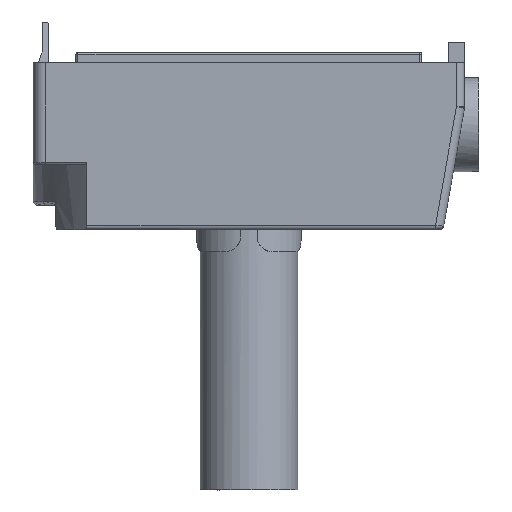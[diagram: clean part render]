
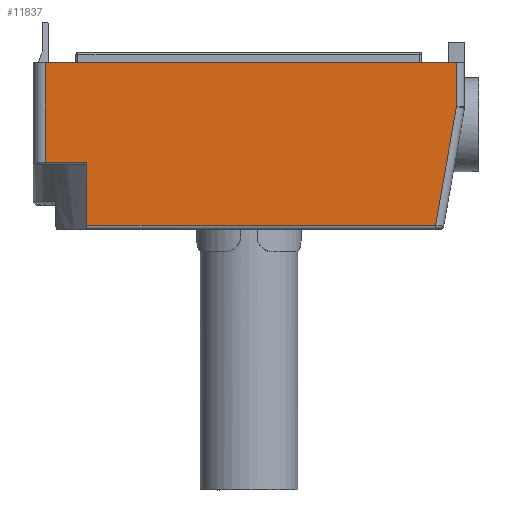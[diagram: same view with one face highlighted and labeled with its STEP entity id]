
A CAD part, front view. The second image highlights one B-rep face of the part: STEP entity #11837.
In plain terms, the highlighted planar face has unit normal (0, -1, 0).
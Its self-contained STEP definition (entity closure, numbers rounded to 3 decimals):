
#1198 = CARTESIAN_POINT ( 'NONE',  ( -50., -35., 10.5 ) ) ;
#1215 = EDGE_LOOP ( 'NONE', ( #16256, #24329, #10708, #37729, #27021, #26117, #37762 ) ) ;
#2339 = VERTEX_POINT ( 'NONE', #4096 ) ;
#2835 = CARTESIAN_POINT ( 'NONE',  ( -39.799, -35., 10. ) ) ;
#3522 = LINE ( 'NONE', #14273, #34824 ) ;
#3757 = DIRECTION ( 'NONE',  ( 0., 0., -1. ) ) ;
#4096 = CARTESIAN_POINT ( 'NONE',  ( -50., -35., 10.5 ) ) ;
#5084 = EDGE_CURVE ( 'NONE', #27794, #2339, #3522, .T. ) ;
#6053 = DIRECTION ( 'NONE',  ( 1., 0., 0. ) ) ;
#6921 = FACE_OUTER_BOUND ( 'NONE', #1215, .T. ) ;
#9557 = EDGE_CURVE ( 'NONE', #38457, #35835, #32969, .T. ) ;
#9953 = VERTEX_POINT ( 'NONE', #16954 ) ;
#10535 = DIRECTION ( 'NONE',  ( 0., 0., -1. ) ) ;
#10708 = ORIENTED_EDGE ( 'NONE', *, *, #34212, .T. ) ;
#11837 = ADVANCED_FACE ( 'NONE', ( #6921 ), #35697, .F. ) ;
#12905 = CARTESIAN_POINT ( 'NONE',  ( 51., -35., 24.175 ) ) ;
#13362 = VECTOR ( 'NONE', #18040, 1000. ) ;
#13458 = DIRECTION ( 'NONE',  ( 0., 1., 0. ) ) ;
#13795 = CARTESIAN_POINT ( 'NONE',  ( -50., -35., 35. ) ) ;
#14052 = LINE ( 'NONE', #2835, #44671 ) ;
#14273 = CARTESIAN_POINT ( 'NONE',  ( -50., -35., 10. ) ) ;
#14403 = EDGE_CURVE ( 'NONE', #9953, #38457, #39367, .T. ) ;
#16256 = ORIENTED_EDGE ( 'NONE', *, *, #5084, .T. ) ;
#16954 = CARTESIAN_POINT ( 'NONE',  ( -39.799, -35., -5. ) ) ;
#17356 = EDGE_CURVE ( 'NONE', #35835, #21980, #19888, .T. ) ;
#18040 = DIRECTION ( 'NONE',  ( 1., 0., 0. ) ) ;
#18206 = VECTOR ( 'NONE', #33294, 1000. ) ;
#19017 = CARTESIAN_POINT ( 'NONE',  ( -50., -35., 35. ) ) ;
#19286 = EDGE_CURVE ( 'NONE', #2339, #20542, #38122, .T. ) ;
#19888 = LINE ( 'NONE', #23636, #45261 ) ;
#20352 = DIRECTION ( 'NONE',  ( 0., 0., 1. ) ) ;
#20542 = VERTEX_POINT ( 'NONE', #43650 ) ;
#21338 = CARTESIAN_POINT ( 'NONE',  ( 45.679, -35., -5. ) ) ;
#21980 = VERTEX_POINT ( 'NONE', #40483 ) ;
#23636 = CARTESIAN_POINT ( 'NONE',  ( 51., -35., 35. ) ) ;
#24329 = ORIENTED_EDGE ( 'NONE', *, *, #19286, .T. ) ;
#26117 = ORIENTED_EDGE ( 'NONE', *, *, #17356, .T. ) ;
#26745 = LINE ( 'NONE', #19017, #18206 ) ;
#27021 = ORIENTED_EDGE ( 'NONE', *, *, #9557, .T. ) ;
#27794 = VERTEX_POINT ( 'NONE', #13795 ) ;
#29692 = DIRECTION ( 'NONE',  ( 0.174, 0., 0.985 ) ) ;
#31958 = CARTESIAN_POINT ( 'NONE',  ( -50., -35., 35. ) ) ;
#32316 = VECTOR ( 'NONE', #29692, 1000. ) ;
#32969 = LINE ( 'NONE', #36261, #32316 ) ;
#33294 = DIRECTION ( 'NONE',  ( 1., 0., 0. ) ) ;
#34212 = EDGE_CURVE ( 'NONE', #20542, #9953, #14052, .T. ) ;
#34824 = VECTOR ( 'NONE', #3757, 1000. ) ;
#35429 = CARTESIAN_POINT ( 'NONE',  ( 45.856, -35., -5. ) ) ;
#35697 = PLANE ( 'NONE',  #45706 ) ;
#35835 = VERTEX_POINT ( 'NONE', #12905 ) ;
#36261 = CARTESIAN_POINT ( 'NONE',  ( 49.03, -35., 13.005 ) ) ;
#37121 = VECTOR ( 'NONE', #6053, 1000. ) ;
#37729 = ORIENTED_EDGE ( 'NONE', *, *, #14403, .T. ) ;
#37762 = ORIENTED_EDGE ( 'NONE', *, *, #42981, .F. ) ;
#38122 = LINE ( 'NONE', #1198, #37121 ) ;
#38457 = VERTEX_POINT ( 'NONE', #35429 ) ;
#39367 = LINE ( 'NONE', #21338, #13362 ) ;
#40483 = CARTESIAN_POINT ( 'NONE',  ( 51., -35., 35. ) ) ;
#42981 = EDGE_CURVE ( 'NONE', #27794, #21980, #26745, .T. ) ;
#43650 = CARTESIAN_POINT ( 'NONE',  ( -39.799, -35., 10.5 ) ) ;
#44671 = VECTOR ( 'NONE', #10535, 1000. ) ;
#45261 = VECTOR ( 'NONE', #20352, 1000. ) ;
#45706 = AXIS2_PLACEMENT_3D ( 'NONE', #31958, #13458, #45773 ) ;
#45773 = DIRECTION ( 'NONE',  ( 0., 0., 1. ) ) ;
